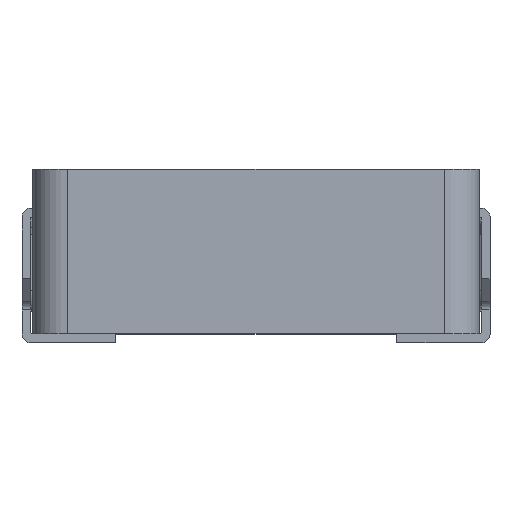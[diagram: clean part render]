
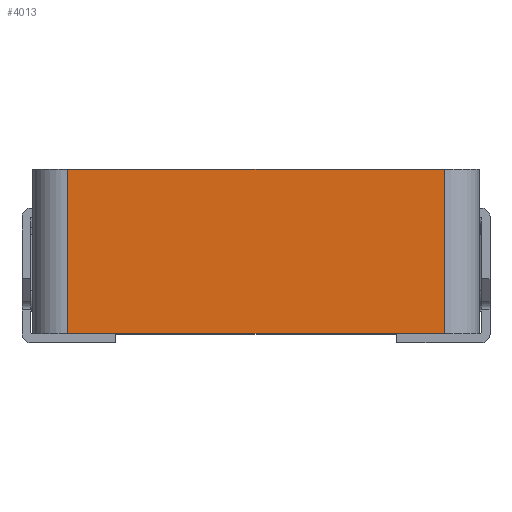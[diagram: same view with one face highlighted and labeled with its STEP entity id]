
A CAD part, top view. The second image highlights one B-rep face of the part: STEP entity #4013.
In plain terms, the highlighted planar face has unit normal (0, 0, 1).
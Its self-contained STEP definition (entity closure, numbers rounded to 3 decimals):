
#99 = CARTESIAN_POINT ( 'NONE',  ( -4.35, -2.9, 5. ) ) ;
#400 = CARTESIAN_POINT ( 'NONE',  ( 4.35, -2.9, 5. ) ) ;
#966 = LINE ( 'NONE', #9199, #1972 ) ;
#1241 = CARTESIAN_POINT ( 'NONE',  ( 4.35, -2.9, 5. ) ) ;
#1373 = DIRECTION ( 'NONE',  ( 0., 1., 0. ) ) ;
#1972 = VECTOR ( 'NONE', #5985, 1000. ) ;
#2258 = VECTOR ( 'NONE', #5623, 1000. ) ;
#2348 = VERTEX_POINT ( 'NONE', #5272 ) ;
#2619 = CARTESIAN_POINT ( 'NONE',  ( 4.35, -2.9, 5. ) ) ;
#2867 = VECTOR ( 'NONE', #5904, 1000. ) ;
#3676 = VERTEX_POINT ( 'NONE', #2619 ) ;
#3988 = DIRECTION ( 'NONE',  ( 1., 0., 0. ) ) ;
#4013 = ADVANCED_FACE ( 'NONE', ( #8344 ), #5346, .T. ) ;
#4169 = AXIS2_PLACEMENT_3D ( 'NONE', #7975, #7187, #3988 ) ;
#4381 = ORIENTED_EDGE ( 'NONE', *, *, #9204, .T. ) ;
#5066 = ORIENTED_EDGE ( 'NONE', *, *, #8293, .F. ) ;
#5272 = CARTESIAN_POINT ( 'NONE',  ( 4.35, 0.9, 5. ) ) ;
#5346 = PLANE ( 'NONE',  #4169 ) ;
#5588 = LINE ( 'NONE', #99, #2258 ) ;
#5623 = DIRECTION ( 'NONE',  ( 0., 1., 0. ) ) ;
#5904 = DIRECTION ( 'NONE',  ( 1., 0., 0. ) ) ;
#5985 = DIRECTION ( 'NONE',  ( 1., 0., 0. ) ) ;
#6128 = ORIENTED_EDGE ( 'NONE', *, *, #6776, .T. ) ;
#6558 = VERTEX_POINT ( 'NONE', #7997 ) ;
#6776 = EDGE_CURVE ( 'NONE', #3676, #2348, #8429, .T. ) ;
#7187 = DIRECTION ( 'NONE',  ( 0., 0., 1. ) ) ;
#7237 = EDGE_CURVE ( 'NONE', #6558, #8195, #5588, .T. ) ;
#7399 = EDGE_LOOP ( 'NONE', ( #6128, #5066, #8247, #4381 ) ) ;
#7941 = VECTOR ( 'NONE', #1373, 1000. ) ;
#7975 = CARTESIAN_POINT ( 'NONE',  ( 4.35, -2.9, 5. ) ) ;
#7997 = CARTESIAN_POINT ( 'NONE',  ( -4.35, -2.9, 5. ) ) ;
#8195 = VERTEX_POINT ( 'NONE', #8418 ) ;
#8247 = ORIENTED_EDGE ( 'NONE', *, *, #7237, .F. ) ;
#8293 = EDGE_CURVE ( 'NONE', #8195, #2348, #966, .T. ) ;
#8344 = FACE_OUTER_BOUND ( 'NONE', #7399, .T. ) ;
#8418 = CARTESIAN_POINT ( 'NONE',  ( -4.35, 0.9, 5. ) ) ;
#8429 = LINE ( 'NONE', #1241, #7941 ) ;
#8791 = LINE ( 'NONE', #400, #2867 ) ;
#9199 = CARTESIAN_POINT ( 'NONE',  ( 4.35, 0.9, 5. ) ) ;
#9204 = EDGE_CURVE ( 'NONE', #6558, #3676, #8791, .T. ) ;
